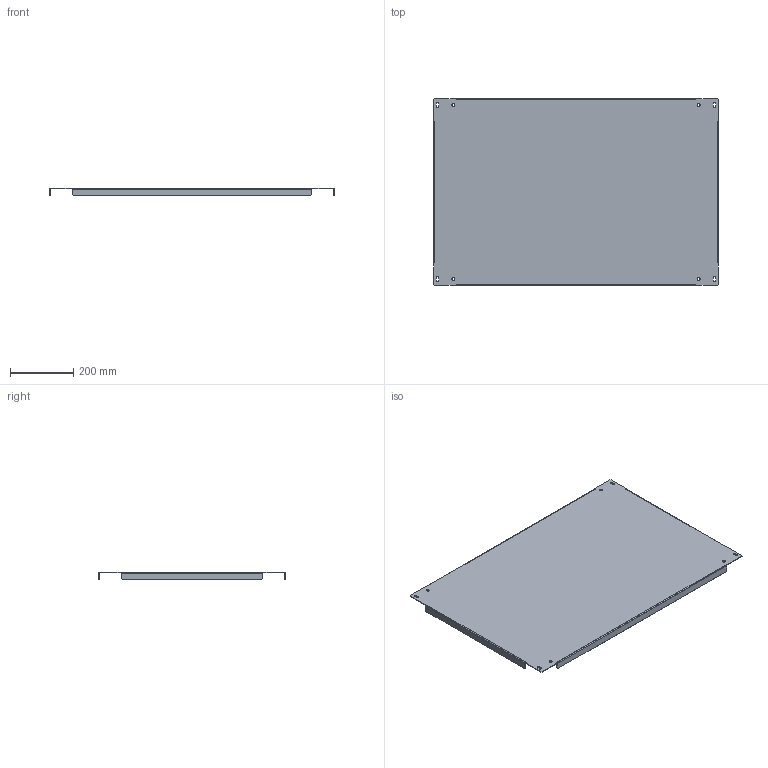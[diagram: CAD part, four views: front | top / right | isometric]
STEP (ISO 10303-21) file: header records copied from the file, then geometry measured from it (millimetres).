
FILE_DESCRIPTION (( 'STEP AP203' ), '1' );
FILE_NAME ('CBPZ10_V1.step', '2014-11-10T12:11:31', ( '' ), ( '' ), 'SwSTEP 2.0', 'SolidWorks 2014', '' );
FILE_SCHEMA (( 'CONFIG_CONTROL_DESIGN' ));
Length unit declared in the file: millimetre
Products named in the file (1): CBPZ10_V1
Bounding box: 899 x 590 x 24 mm (x, y, z)
Volume: 1161164.6 mm3; surface area: 1168061.1 mm2
Topology: 1 solids, 1 shells, 82 faces, 224 edges, 144 vertices
Faces by surface type: plane 58, cylinder 24
Entity records: 2677 total; most frequent: CARTESIAN_POINT 451, ORIENTED_EDGE 448, DIRECTION 438, EDGE_CURVE 224, VECTOR 176, LINE 176, VERTEX_POINT 144, AXIS2_PLACEMENT_3D 131
